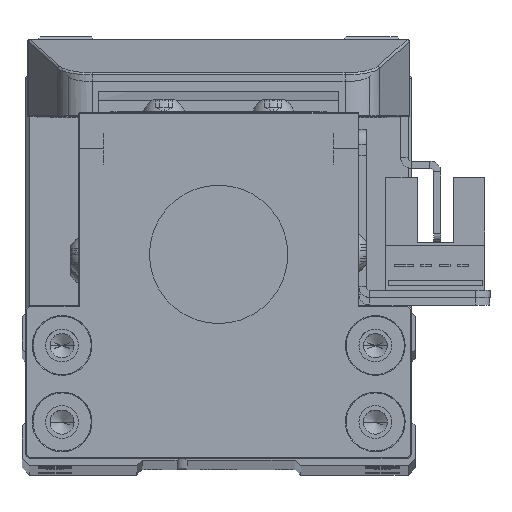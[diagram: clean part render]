
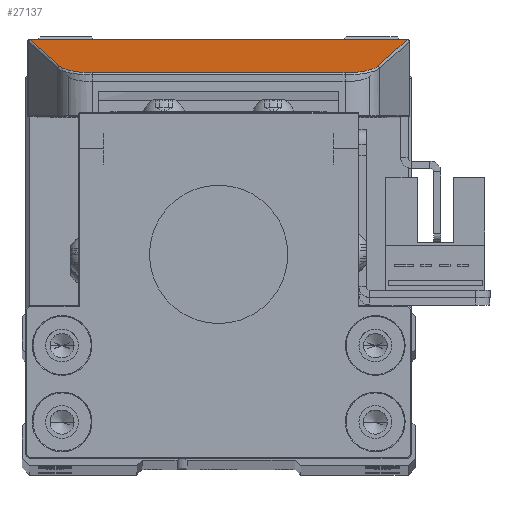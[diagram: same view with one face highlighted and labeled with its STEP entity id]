
A CAD part, top view. The second image highlights one B-rep face of the part: STEP entity #27137.
In plain terms, the highlighted planar face has unit normal (0, 0.962, 0.274) as drawn and (0, 0.274, 0.962) by its records, which use the part's own axes.
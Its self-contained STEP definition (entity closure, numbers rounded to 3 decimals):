
#61 = DIRECTION ( 'NONE',  ( -0.293, 0.92, -0.262 ) ) ;
#775 = ORIENTED_EDGE ( 'NONE', *, *, #785, .T. ) ;
#785 = EDGE_CURVE ( 'NONE', #6583, #10474, #24587, .T. ) ;
#1613 = VECTOR ( 'NONE', #14347, 1000. ) ;
#2232 = CARTESIAN_POINT ( 'NONE',  ( 26.25, 9.269, -0.077 ) ) ;
#2715 =( BOUNDED_CURVE ( )  B_SPLINE_CURVE ( 3, ( #7827, #22993, #12930, #30620 ),
 .UNSPECIFIED., .F., .F. ) 
 B_SPLINE_CURVE_WITH_KNOTS ( ( 4, 4 ),
 ( 5.02, 6.283 ),
 .UNSPECIFIED. ) 
 CURVE ( )  GEOMETRIC_REPRESENTATION_ITEM ( )  RATIONAL_B_SPLINE_CURVE ( ( 1., 0.871, 0.871, 1. ) ) 
 REPRESENTATION_ITEM ( '' )  );
#2909 = CARTESIAN_POINT ( 'NONE',  ( 25.876, 9.269, -0.077 ) ) ;
#3186 = LINE ( 'NONE', #19427, #1613 ) ;
#3302 = FACE_OUTER_BOUND ( 'NONE', #22298, .T. ) ;
#3956 = CARTESIAN_POINT ( 'NONE',  ( -25.876, 9.269, -0.077 ) ) ;
#3999 = CARTESIAN_POINT ( 'NONE',  ( 17.344, 25.282, -4.638 ) ) ;
#4346 = VECTOR ( 'NONE', #9908, 1000. ) ;
#4681 = CARTESIAN_POINT ( 'NONE',  ( -19.466, 25.282, -4.638 ) ) ;
#5396 = EDGE_CURVE ( 'NONE', #26612, #6583, #16259, .T. ) ;
#5449 = CARTESIAN_POINT ( 'NONE',  ( 25.87, 9.287, -0.082 ) ) ;
#6583 = VERTEX_POINT ( 'NONE', #22733 ) ;
#6709 = DIRECTION ( 'NONE',  ( 0., 0.962, -0.274 ) ) ;
#7827 = CARTESIAN_POINT ( 'NONE',  ( 21.823, 22.007, -3.705 ) ) ;
#8569 = VECTOR ( 'NONE', #27996, 1000. ) ;
#9908 = DIRECTION ( 'NONE',  ( 1., 0., 0. ) ) ;
#9970 = ORIENTED_EDGE ( 'NONE', *, *, #32492, .T. ) ;
#10046 = EDGE_CURVE ( 'NONE', #11588, #14287, #11442, .T. ) ;
#10128 = EDGE_CURVE ( 'NONE', #10474, #11588, #26515, .T. ) ;
#10135 = CARTESIAN_POINT ( 'NONE',  ( 15.221, 42.754, -9.615 ) ) ;
#10474 = VERTEX_POINT ( 'NONE', #17066 ) ;
#10728 = ORIENTED_EDGE ( 'NONE', *, *, #10046, .T. ) ;
#11442 = LINE ( 'NONE', #10135, #30817 ) ;
#11534 = CARTESIAN_POINT ( 'NONE',  ( -25.87, 9.287, -0.082 ) ) ;
#11588 = VERTEX_POINT ( 'NONE', #11824 ) ;
#11824 = CARTESIAN_POINT ( 'NONE',  ( 25.87, 9.287, -0.082 ) ) ;
#12376 = CARTESIAN_POINT ( 'NONE',  ( -21.179, 24.03, -4.281 ) ) ;
#12930 = CARTESIAN_POINT ( 'NONE',  ( 19.466, 25.282, -4.638 ) ) ;
#13016 = CARTESIAN_POINT ( 'NONE',  ( 25.874, 9.275, -0.078 ) ) ;
#13485 = CARTESIAN_POINT ( 'NONE',  ( -17.344, 25.282, -4.638 ) ) ;
#14264 = PLANE ( 'NONE',  #32177 ) ;
#14287 = VERTEX_POINT ( 'NONE', #23784 ) ;
#14347 = DIRECTION ( 'NONE',  ( -1., 0., 0. ) ) ;
#15537 = VERTEX_POINT ( 'NONE', #22404 ) ;
#16259 =( BOUNDED_CURVE ( )  B_SPLINE_CURVE ( 3, ( #11534, #29213, #26679, #3956 ),
 .UNSPECIFIED., .F., .F. ) 
 B_SPLINE_CURVE_WITH_KNOTS ( ( 4, 4 ),
 ( 1.263, 1.274 ),
 .UNSPECIFIED. ) 
 CURVE ( )  GEOMETRIC_REPRESENTATION_ITEM ( )  RATIONAL_B_SPLINE_CURVE ( ( 1., 1., 1., 1. ) ) 
 REPRESENTATION_ITEM ( '' )  );
#17066 = CARTESIAN_POINT ( 'NONE',  ( 25.876, 9.269, -0.077 ) ) ;
#17082 = VERTEX_POINT ( 'NONE', #13485 ) ;
#18095 = CARTESIAN_POINT ( 'NONE',  ( 25.872, 9.281, -0.08 ) ) ;
#19427 = CARTESIAN_POINT ( 'NONE',  ( -17.344, 25.282, -4.638 ) ) ;
#20835 = EDGE_CURVE ( 'NONE', #17082, #15537, #25028, .T. ) ;
#21240 = LINE ( 'NONE', #30554, #8569 ) ;
#21581 = EDGE_CURVE ( 'NONE', #15537, #26612, #21240, .T. ) ;
#21859 = ORIENTED_EDGE ( 'NONE', *, *, #5396, .T. ) ;
#21892 = DIRECTION ( 'NONE',  ( 0., -0.274, -0.962 ) ) ;
#22132 = CARTESIAN_POINT ( 'NONE',  ( -25.87, 9.287, -0.082 ) ) ;
#22298 = EDGE_LOOP ( 'NONE', ( #775, #30051, #10728, #9970, #30697, #24023, #29500, #21859 ) ) ;
#22404 = CARTESIAN_POINT ( 'NONE',  ( -21.823, 22.007, -3.705 ) ) ;
#22733 = CARTESIAN_POINT ( 'NONE',  ( -25.876, 9.269, -0.077 ) ) ;
#22993 = CARTESIAN_POINT ( 'NONE',  ( 21.179, 24.03, -4.281 ) ) ;
#23715 = VERTEX_POINT ( 'NONE', #3999 ) ;
#23784 = CARTESIAN_POINT ( 'NONE',  ( 21.823, 22.007, -3.705 ) ) ;
#24023 = ORIENTED_EDGE ( 'NONE', *, *, #20835, .T. ) ;
#24587 = LINE ( 'NONE', #2232, #4346 ) ;
#25028 =( BOUNDED_CURVE ( )  B_SPLINE_CURVE ( 3, ( #32482, #4681, #12376, #30047 ),
 .UNSPECIFIED., .F., .F. ) 
 B_SPLINE_CURVE_WITH_KNOTS ( ( 4, 4 ),
 ( 0., 1.263 ),
 .UNSPECIFIED. ) 
 CURVE ( )  GEOMETRIC_REPRESENTATION_ITEM ( )  RATIONAL_B_SPLINE_CURVE ( ( 1., 0.871, 0.871, 1. ) ) 
 REPRESENTATION_ITEM ( '' )  );
#25520 = EDGE_CURVE ( 'NONE', #23715, #17082, #3186, .T. ) ;
#26515 =( BOUNDED_CURVE ( )  B_SPLINE_CURVE ( 3, ( #2909, #13016, #18095, #5449 ),
 .UNSPECIFIED., .F., .F. ) 
 B_SPLINE_CURVE_WITH_KNOTS ( ( 4, 4 ),
 ( 5.009, 5.02 ),
 .UNSPECIFIED. ) 
 CURVE ( )  GEOMETRIC_REPRESENTATION_ITEM ( )  RATIONAL_B_SPLINE_CURVE ( ( 1., 1., 1., 1. ) ) 
 REPRESENTATION_ITEM ( '' )  );
#26612 = VERTEX_POINT ( 'NONE', #22132 ) ;
#26679 = CARTESIAN_POINT ( 'NONE',  ( -25.874, 9.275, -0.078 ) ) ;
#27137 = ADVANCED_FACE ( 'NONE', ( #3302 ), #14264, .F. ) ;
#27996 = DIRECTION ( 'NONE',  ( -0.293, -0.92, 0.262 ) ) ;
#29213 = CARTESIAN_POINT ( 'NONE',  ( -25.872, 9.281, -0.08 ) ) ;
#29402 = CARTESIAN_POINT ( 'NONE',  ( -43.406, 25.5, -4.7 ) ) ;
#29500 = ORIENTED_EDGE ( 'NONE', *, *, #21581, .T. ) ;
#30047 = CARTESIAN_POINT ( 'NONE',  ( -21.823, 22.007, -3.705 ) ) ;
#30051 = ORIENTED_EDGE ( 'NONE', *, *, #10128, .T. ) ;
#30554 = CARTESIAN_POINT ( 'NONE',  ( -22.655, 19.393, -2.96 ) ) ;
#30620 = CARTESIAN_POINT ( 'NONE',  ( 17.344, 25.282, -4.638 ) ) ;
#30697 = ORIENTED_EDGE ( 'NONE', *, *, #25520, .T. ) ;
#30817 = VECTOR ( 'NONE', #61, 1000. ) ;
#32177 = AXIS2_PLACEMENT_3D ( 'NONE', #29402, #21892, #6709 ) ;
#32482 = CARTESIAN_POINT ( 'NONE',  ( -17.344, 25.282, -4.638 ) ) ;
#32492 = EDGE_CURVE ( 'NONE', #14287, #23715, #2715, .T. ) ;
